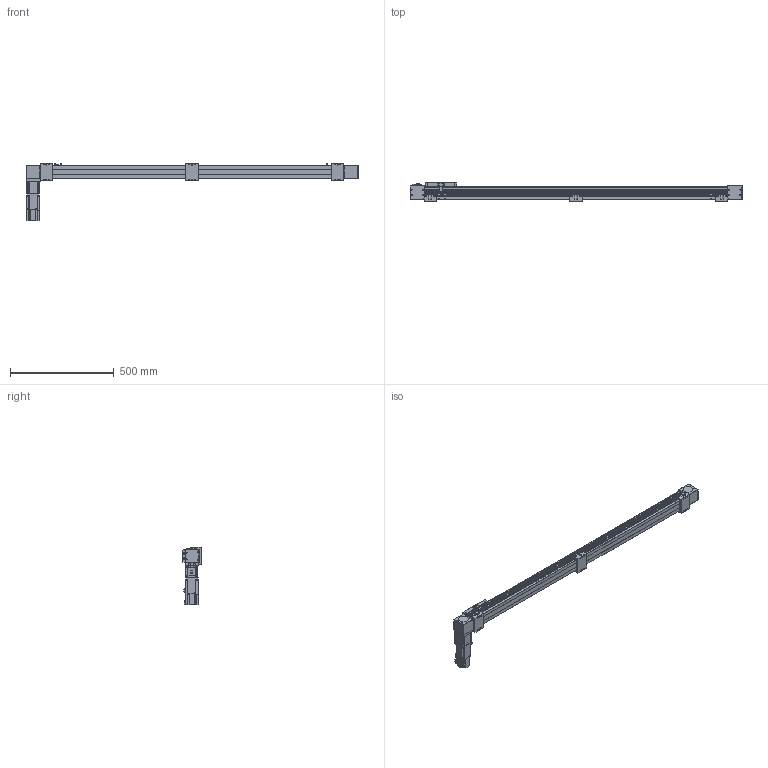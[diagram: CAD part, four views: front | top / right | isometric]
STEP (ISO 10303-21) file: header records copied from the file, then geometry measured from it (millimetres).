
FILE_DESCRIPTION(/* description */ ('STEP AP203'),/* implementation_level */ '2;1');
FILE_NAME(/* name */ 'SK60-P13-S1300-BR-T40-C1-N(0)',/* time_stamp */ '2023-04-06T03:59:52+02:00',/* author */ ('License CC BY-ND 4.0'),/* organization */ ('CADENAS'),/* preprocessor_version */ 'ST-DEVELOPER v19.3',/* originating_system */ 'PARTsolutions',/* authorisation */ ' ');
FILE_SCHEMA (('CONFIG_CONTROL_DESIGN'));
Length unit declared in the file: millimetre
Products named in the file (11): SK60-P13-S1300-BR-T40-C1-N(0); PSC140-sensor; SK60-S450_seat; SK60-S450-BL-C1_slider; SK60_body3; SK60_body6; SK60-BL_body2; T40-p1; SK60_body5; SK60_body4; SK60-S1300-BR-C1_body
Assembly tree (18 placements, depth 2):
  SK60-P13-S1300-BR-T40-C1-N(0)
    PSC140-sensor  x3
    SK60-S450_seat  x3
    SK60-S450-BL-C1_slider
    SK60_body3  x3
    SK60_body6  x2
    SK60-BL_body2  x2
    T40-p1
    SK60_body5
    SK60_body4
    SK60-S1300-BR-C1_body
Bounding box: 1600 x 90 x 279.1 mm (x, y, z)
Volume: 6033597.3 mm3; surface area: 786867 mm2
Topology: 18 solids, 22 shells, 878 faces, 2207 edges, 1458 vertices
Faces by surface type: plane 568, cylinder 282, cone 26, torus 2
Full cylindrical faces by diameter (mm): 2.8 x3, 3.3 x4, 4.2 x8, 4.5 x26, 4.6 x3, 4.917 x20, 5 x2, 5.478 x4, 5.5 x23, 6.5 x6, 8 x4, 8.5 x4, 9.988 x4, 10 x12, 13.556 x1, 14 x1, 14.586 x1, 19.692 x1, 38.432 x2, 43 x1, 44 x3, 47 x2, 50 x2
Entity records: 19379 total; most frequent: DIRECTION 3294, CARTESIAN_POINT 3290, ORIENTED_EDGE 3050, EDGE_CURVE 1525, AXIS2_PLACEMENT_3D 1101, LINE 1092, VECTOR 1092, VERTEX_POINT 1077
